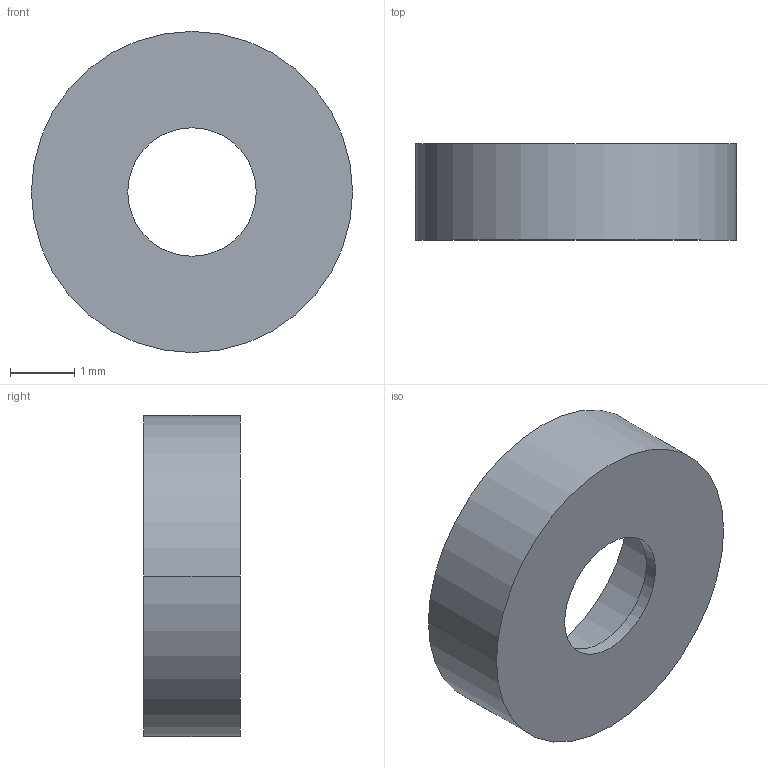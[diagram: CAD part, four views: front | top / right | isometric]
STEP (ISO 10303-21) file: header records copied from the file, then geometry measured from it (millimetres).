
FILE_DESCRIPTION((''),'2;1');
FILE_NAME('GTC01-A-MMS01_PRT','2008-06-30T',('GRA'),(''),'PRO/ENGINEER BY PARAMETRIC TECHNOLOGY CORPORATION, 2006170','PRO/ENGINEER BY PARAMETRIC TECHNOLOGY CORPORATION, 2006170','');
FILE_SCHEMA(('CONFIG_CONTROL_DESIGN'));
Length unit declared in the file: millimetre
Products named in the file (1): GTC01-A-MMS01_PRT
Bounding box: 5 x 1.5 x 5 mm (x, y, z)
Volume: 14.1 mm3; surface area: 73.3 mm2
Topology: 1 solids, 1 shells, 9 faces, 18 edges, 12 vertices
Faces by surface type: cylinder 6, plane 3
Entity records: 286 total; most frequent: DIRECTION 48, CARTESIAN_POINT 39, ORIENTED_EDGE 36, AXIS2_PLACEMENT_3D 21, EDGE_CURVE 18, VERTEX_POINT 12, EDGE_LOOP 12, CIRCLE 12
